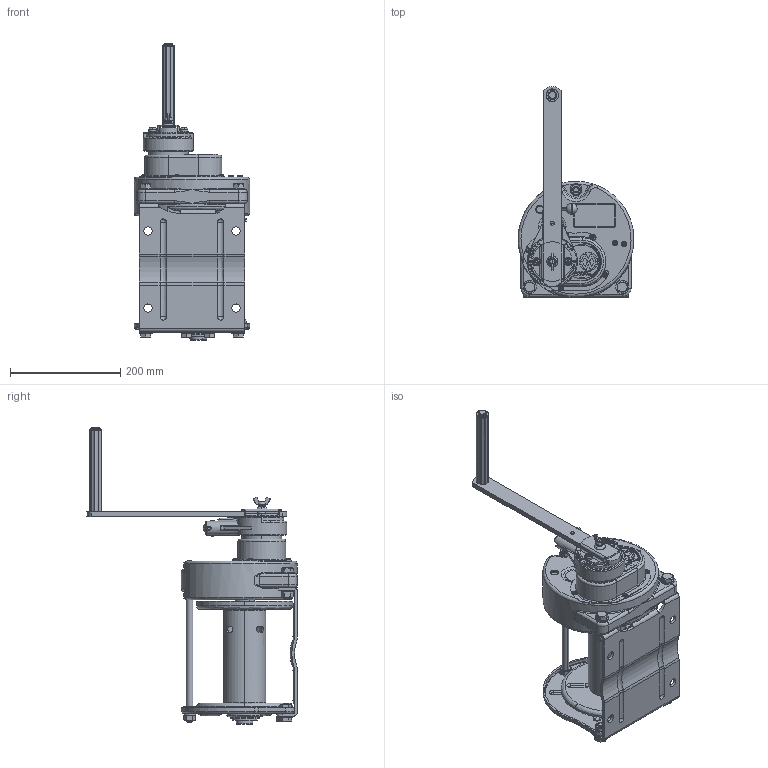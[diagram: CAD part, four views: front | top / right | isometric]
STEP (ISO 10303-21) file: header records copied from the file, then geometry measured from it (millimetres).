
FILE_DESCRIPTION( (''), '2;1');
FILE_NAME ('RST-10-SI.stp','2024-01-10T11:36:59',(''),(''),'spGate 19.8.2 (****-****-****-****)','','');
FILE_SCHEMA (('AUTOMOTIVE_DESIGN'));
Length unit declared in the file: millimetre
Products named in the file (3): Assembly; RST-10-SI-prt0; RST-10-SI-prt1
Assembly tree (2 placements, depth 2):
  Assembly
    RST-10-SI-prt0
    RST-10-SI-prt1
Bounding box: 209.96 x 382.43 x 538.8 mm (x, y, z)
Volume: 4163367.5 mm3; surface area: 713183.5 mm2
Topology: 2 solids, 2 shells, 2936 faces, 7517 edges, 4730 vertices
Faces by surface type: plane 1479, cylinder 884, bspline 468, sphere 105
Entity records: 160216 total; most frequent: CARTESIAN_POINT 30415, ORIENTED_EDGE 14932, DIRECTION 14562, COLOUR_RGB 10404, PRESENTATION_STYLE_ASSIGNMENT 10404, STYLED_ITEM 10404, EDGE_CURVE 7466, DRAUGHTING_PRE_DEFINED_CURVE_FONT 7466
